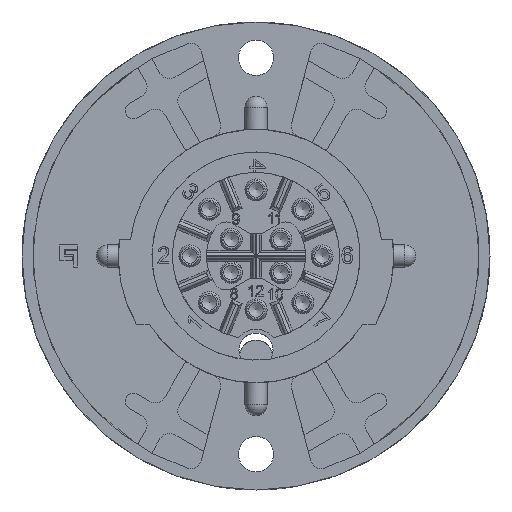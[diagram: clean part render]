
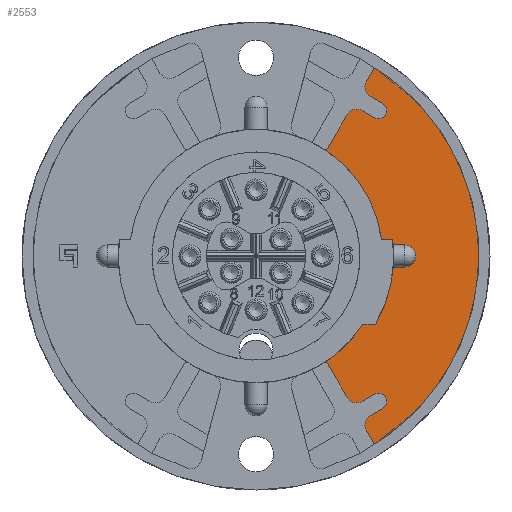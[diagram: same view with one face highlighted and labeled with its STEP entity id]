
A CAD part, left-side view. The second image highlights one B-rep face of the part: STEP entity #2553.
In plain terms, the highlighted planar face has unit normal (-1, 0, 0).
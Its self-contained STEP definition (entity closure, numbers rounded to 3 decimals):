
#1514=PLANE('',#14249);
#1882=FACE_OUTER_BOUND('',#5669,.T.);
#2553=ADVANCED_FACE('',(#1882),#1514,.F.);
#3515=LINE('',#18437,#4318);
#3516=LINE('',#18439,#4319);
#3531=LINE('',#18505,#4334);
#3534=LINE('',#18511,#4337);
#3551=LINE('',#18571,#4354);
#3552=LINE('',#18576,#4355);
#3553=LINE('',#18580,#4356);
#3554=LINE('',#18581,#4357);
#3555=LINE('',#18585,#4358);
#3556=LINE('',#18589,#4359);
#3557=LINE('',#18593,#4360);
#3558=LINE('',#18597,#4361);
#3559=LINE('',#18598,#4362);
#3560=LINE('',#18602,#4363);
#4318=VECTOR('',#15318,1.);
#4319=VECTOR('',#15321,1.);
#4334=VECTOR('',#15360,1.);
#4337=VECTOR('',#15365,1.);
#4354=VECTOR('',#15446,1.);
#4355=VECTOR('',#15449,1.);
#4356=VECTOR('',#15452,1.);
#4357=VECTOR('',#15453,1.);
#4358=VECTOR('',#15456,1.);
#4359=VECTOR('',#15459,1.);
#4360=VECTOR('',#15462,1.);
#4361=VECTOR('',#15465,1.);
#4362=VECTOR('',#15466,1.);
#4363=VECTOR('',#15469,1.);
#5669=EDGE_LOOP('',(#6957,#6958,#6959,#6960,#6961,#6962,#6963,#6964,#6965,
#6966,#6967,#6968,#6969,#6970,#6971,#6972,#6973,#6974,#6975,#6976,#6977,
#6978,#6979,#6980,#6981,#6982,#6983,#6984));
#6957=ORIENTED_EDGE('',*,*,#12073,.T.);
#6958=ORIENTED_EDGE('',*,*,#12074,.T.);
#6959=ORIENTED_EDGE('',*,*,#12075,.T.);
#6960=ORIENTED_EDGE('',*,*,#12076,.T.);
#6961=ORIENTED_EDGE('',*,*,#12077,.T.);
#6962=ORIENTED_EDGE('',*,*,#11925,.T.);
#6963=ORIENTED_EDGE('',*,*,#12023,.T.);
#6964=ORIENTED_EDGE('',*,*,#12016,.T.);
#6965=ORIENTED_EDGE('',*,*,#12041,.F.);
#6966=ORIENTED_EDGE('',*,*,#12046,.F.);
#6967=ORIENTED_EDGE('',*,*,#12044,.F.);
#6968=ORIENTED_EDGE('',*,*,#12019,.T.);
#6969=ORIENTED_EDGE('',*,*,#12022,.T.);
#6970=ORIENTED_EDGE('',*,*,#11917,.T.);
#6971=ORIENTED_EDGE('',*,*,#12078,.T.);
#6972=ORIENTED_EDGE('',*,*,#12079,.T.);
#6973=ORIENTED_EDGE('',*,*,#12080,.T.);
#6974=ORIENTED_EDGE('',*,*,#12081,.T.);
#6975=ORIENTED_EDGE('',*,*,#12082,.T.);
#6976=ORIENTED_EDGE('',*,*,#12083,.T.);
#6977=ORIENTED_EDGE('',*,*,#12084,.T.);
#6978=ORIENTED_EDGE('',*,*,#12085,.T.);
#6979=ORIENTED_EDGE('',*,*,#12086,.T.);
#6980=ORIENTED_EDGE('',*,*,#12067,.T.);
#6981=ORIENTED_EDGE('',*,*,#12087,.T.);
#6982=ORIENTED_EDGE('',*,*,#12088,.T.);
#6983=ORIENTED_EDGE('',*,*,#12089,.T.);
#6984=ORIENTED_EDGE('',*,*,#12090,.T.);
#10566=VERTEX_POINT('',#18005);
#10567=VERTEX_POINT('',#18007);
#10573=VERTEX_POINT('',#18021);
#10574=VERTEX_POINT('',#18023);
#10642=VERTEX_POINT('',#18395);
#10643=VERTEX_POINT('',#18397);
#10644=VERTEX_POINT('',#18400);
#10645=VERTEX_POINT('',#18402);
#10654=VERTEX_POINT('',#18504);
#10655=VERTEX_POINT('',#18508);
#10664=VERTEX_POINT('',#18560);
#10665=VERTEX_POINT('',#18562);
#10668=VERTEX_POINT('',#18572);
#10669=VERTEX_POINT('',#18573);
#10670=VERTEX_POINT('',#18575);
#10671=VERTEX_POINT('',#18577);
#10672=VERTEX_POINT('',#18579);
#10673=VERTEX_POINT('',#18582);
#10674=VERTEX_POINT('',#18584);
#10675=VERTEX_POINT('',#18586);
#10676=VERTEX_POINT('',#18588);
#10677=VERTEX_POINT('',#18590);
#10678=VERTEX_POINT('',#18592);
#10679=VERTEX_POINT('',#18594);
#10680=VERTEX_POINT('',#18596);
#10681=VERTEX_POINT('',#18599);
#10682=VERTEX_POINT('',#18601);
#10683=VERTEX_POINT('',#18603);
#11917=EDGE_CURVE('',#10567,#10566,#13806,.T.);
#11925=EDGE_CURVE('',#10574,#10573,#13809,.T.);
#12016=EDGE_CURVE('',#10643,#10642,#13848,.T.);
#12019=EDGE_CURVE('',#10645,#10644,#13849,.T.);
#12022=EDGE_CURVE('',#10644,#10567,#3515,.T.);
#12023=EDGE_CURVE('',#10573,#10643,#3516,.T.);
#12041=EDGE_CURVE('',#10654,#10642,#3531,.T.);
#12044=EDGE_CURVE('',#10645,#10655,#3534,.T.);
#12046=EDGE_CURVE('',#10655,#10654,#13853,.T.);
#12067=EDGE_CURVE('',#10665,#10664,#13862,.T.);
#12073=EDGE_CURVE('',#10668,#10669,#3551,.T.);
#12074=EDGE_CURVE('',#10669,#10670,#13864,.T.);
#12075=EDGE_CURVE('',#10670,#10671,#3552,.T.);
#12076=EDGE_CURVE('',#10671,#10672,#13865,.T.);
#12077=EDGE_CURVE('',#10672,#10574,#3553,.T.);
#12078=EDGE_CURVE('',#10566,#10673,#3554,.T.);
#12079=EDGE_CURVE('',#10673,#10674,#13866,.T.);
#12080=EDGE_CURVE('',#10674,#10675,#3555,.T.);
#12081=EDGE_CURVE('',#10675,#10676,#13867,.T.);
#12082=EDGE_CURVE('',#10676,#10677,#3556,.T.);
#12083=EDGE_CURVE('',#10677,#10678,#13868,.T.);
#12084=EDGE_CURVE('',#10678,#10679,#3557,.T.);
#12085=EDGE_CURVE('',#10679,#10680,#13869,.T.);
#12086=EDGE_CURVE('',#10680,#10665,#3558,.T.);
#12087=EDGE_CURVE('',#10664,#10681,#3559,.T.);
#12088=EDGE_CURVE('',#10681,#10682,#13870,.T.);
#12089=EDGE_CURVE('',#10682,#10683,#3560,.T.);
#12090=EDGE_CURVE('',#10683,#10668,#13871,.T.);
#13806=CIRCLE('',#14127,11.5);
#13809=CIRCLE('',#14131,11.5);
#13848=CIRCLE('',#14192,12.5);
#13849=CIRCLE('',#14193,12.5);
#13853=CIRCLE('',#14211,1.);
#13862=CIRCLE('',#14238,20.25);
#13864=CIRCLE('',#14241,0.7);
#13865=CIRCLE('',#14242,1.);
#13866=CIRCLE('',#14243,1.);
#13867=CIRCLE('',#14244,0.7);
#13868=CIRCLE('',#14245,0.7);
#13869=CIRCLE('',#14246,1.);
#13870=CIRCLE('',#14247,1.);
#13871=CIRCLE('',#14248,0.7);
#14127=AXIS2_PLACEMENT_3D('',#18006,#15134,#15135);
#14131=AXIS2_PLACEMENT_3D('',#18022,#15147,#15148);
#14192=AXIS2_PLACEMENT_3D('',#18396,#15309,#15310);
#14193=AXIS2_PLACEMENT_3D('',#18401,#15313,#15314);
#14211=AXIS2_PLACEMENT_3D('',#18514,#15370,#15371);
#14238=AXIS2_PLACEMENT_3D('',#18561,#15436,#15437);
#14241=AXIS2_PLACEMENT_3D('',#18574,#15447,#15448);
#14242=AXIS2_PLACEMENT_3D('',#18578,#15450,#15451);
#14243=AXIS2_PLACEMENT_3D('',#18583,#15454,#15455);
#14244=AXIS2_PLACEMENT_3D('',#18587,#15457,#15458);
#14245=AXIS2_PLACEMENT_3D('',#18591,#15460,#15461);
#14246=AXIS2_PLACEMENT_3D('',#18595,#15463,#15464);
#14247=AXIS2_PLACEMENT_3D('',#18600,#15467,#15468);
#14248=AXIS2_PLACEMENT_3D('',#18604,#15470,#15471);
#14249=AXIS2_PLACEMENT_3D('',#18605,#15472,#15473);
#15134=DIRECTION('',(1.,0.,0.));
#15135=DIRECTION('',(0.,1.,0.));
#15147=DIRECTION('',(1.,0.,0.));
#15148=DIRECTION('',(0.,1.,0.));
#15309=DIRECTION('',(1.,0.,0.));
#15310=DIRECTION('',(0.,1.,0.));
#15313=DIRECTION('',(1.,0.,0.));
#15314=DIRECTION('',(0.,1.,0.));
#15318=DIRECTION('',(0.,1.,0.));
#15321=DIRECTION('',(0.,-1.,0.));
#15360=DIRECTION('',(0.,1.,0.));
#15365=DIRECTION('',(0.,-1.,0.));
#15370=DIRECTION('',(-1.,0.,0.));
#15371=DIRECTION('',(0.,0.,-1.));
#15436=DIRECTION('',(-1.,0.,0.));
#15437=DIRECTION('',(0.,1.,0.));
#15446=DIRECTION('',(0.,0.5,-0.866));
#15447=DIRECTION('',(1.,0.,0.));
#15448=DIRECTION('',(0.,0.,-1.));
#15449=DIRECTION('',(0.,0.866,0.5));
#15450=DIRECTION('',(-1.,0.,0.));
#15451=DIRECTION('',(0.,0.,-1.));
#15452=DIRECTION('',(0.,0.5,-0.866));
#15453=DIRECTION('',(0.,-0.5,-0.866));
#15454=DIRECTION('',(-1.,0.,0.));
#15455=DIRECTION('',(0.,0.,-1.));
#15456=DIRECTION('',(0.,-0.866,0.5));
#15457=DIRECTION('',(1.,0.,0.));
#15458=DIRECTION('',(0.,0.,-1.));
#15459=DIRECTION('',(0.,-0.5,-0.866));
#15460=DIRECTION('',(1.,0.,0.));
#15461=DIRECTION('',(0.,0.,-1.));
#15462=DIRECTION('',(0.,0.866,-0.5));
#15463=DIRECTION('',(-1.,0.,0.));
#15464=DIRECTION('',(0.,0.,-1.));
#15465=DIRECTION('',(0.,-0.5,-0.866));
#15466=DIRECTION('',(0.,0.5,-0.866));
#15467=DIRECTION('',(-1.,0.,0.));
#15468=DIRECTION('',(0.,0.,-1.));
#15469=DIRECTION('',(0.,-0.866,-0.5));
#15470=DIRECTION('',(1.,0.,0.));
#15471=DIRECTION('',(0.,0.,-1.));
#15472=DIRECTION('',(1.,0.,0.));
#15473=DIRECTION('',(0.,0.,-1.));
#18005=CARTESIAN_POINT('',(6.5,-6.387,-9.563));
#18006=CARTESIAN_POINT('',(6.5,0.,0.));
#18007=CARTESIAN_POINT('',(6.5,-9.686,-6.2));
#18021=CARTESIAN_POINT('',(6.5,-11.402,1.5));
#18022=CARTESIAN_POINT('',(6.5,0.,0.));
#18023=CARTESIAN_POINT('',(6.5,-6.387,9.563));
#18395=CARTESIAN_POINT('',(6.5,-12.46,1.));
#18396=CARTESIAN_POINT('',(6.5,0.,0.));
#18397=CARTESIAN_POINT('',(6.5,-12.41,1.5));
#18400=CARTESIAN_POINT('',(6.5,-10.854,-6.2));
#18401=CARTESIAN_POINT('',(6.5,0.,0.));
#18402=CARTESIAN_POINT('',(6.5,-12.46,-1.));
#18437=CARTESIAN_POINT('',(6.5,-10.854,-6.2));
#18439=CARTESIAN_POINT('',(6.5,-11.402,1.5));
#18504=CARTESIAN_POINT('',(6.5,-13.5,1.));
#18505=CARTESIAN_POINT('',(6.5,-13.5,1.));
#18508=CARTESIAN_POINT('',(6.5,-13.5,-1.));
#18511=CARTESIAN_POINT('',(6.5,-11.456,-1.));
#18514=CARTESIAN_POINT('',(6.5,-13.5,0.));
#18560=CARTESIAN_POINT('',(6.5,-10.768,17.15));
#18561=CARTESIAN_POINT('',(6.5,0.,0.));
#18562=CARTESIAN_POINT('',(6.5,-10.768,-17.15));
#18571=CARTESIAN_POINT('',(6.5,-3.248,-1.875));
#18572=CARTESIAN_POINT('',(6.5,-11.773,12.891));
#18573=CARTESIAN_POINT('',(6.5,-11.723,12.804));
#18574=CARTESIAN_POINT('',(6.5,-11.116,13.154));
#18575=CARTESIAN_POINT('',(6.5,-10.766,12.548));
#18576=CARTESIAN_POINT('',(6.5,-8.125,14.073));
#18577=CARTESIAN_POINT('',(6.5,-9.641,13.198));
#18578=CARTESIAN_POINT('',(6.5,-9.141,12.332));
#18579=CARTESIAN_POINT('',(6.5,-8.275,12.832));
#18580=CARTESIAN_POINT('',(6.5,-0.65,-0.375));
#18581=CARTESIAN_POINT('',(6.5,-0.65,0.375));
#18582=CARTESIAN_POINT('',(6.5,-8.275,-12.832));
#18583=CARTESIAN_POINT('',(6.5,-9.141,-12.332));
#18584=CARTESIAN_POINT('',(6.5,-9.641,-13.198));
#18585=CARTESIAN_POINT('',(6.5,-8.125,-14.073));
#18586=CARTESIAN_POINT('',(6.5,-10.766,-12.548));
#18587=CARTESIAN_POINT('',(6.5,-11.116,-13.154));
#18588=CARTESIAN_POINT('',(6.5,-11.723,-12.804));
#18589=CARTESIAN_POINT('',(6.5,-3.248,1.875));
#18590=CARTESIAN_POINT('',(6.5,-11.773,-12.891));
#18591=CARTESIAN_POINT('',(6.5,-11.166,-13.241));
#18592=CARTESIAN_POINT('',(6.5,-11.516,-13.847));
#18593=CARTESIAN_POINT('',(6.5,-8.875,-15.372));
#18594=CARTESIAN_POINT('',(6.5,-10.391,-14.497));
#18595=CARTESIAN_POINT('',(6.5,-10.891,-15.363));
#18596=CARTESIAN_POINT('',(6.5,-10.025,-15.863));
#18597=CARTESIAN_POINT('',(6.5,-0.65,0.375));
#18598=CARTESIAN_POINT('',(6.5,-0.65,-0.375));
#18599=CARTESIAN_POINT('',(6.5,-10.025,15.863));
#18600=CARTESIAN_POINT('',(6.5,-10.891,15.363));
#18601=CARTESIAN_POINT('',(6.5,-10.391,14.497));
#18602=CARTESIAN_POINT('',(6.5,-8.875,15.372));
#18603=CARTESIAN_POINT('',(6.5,-11.516,13.847));
#18604=CARTESIAN_POINT('',(6.5,-11.166,13.241));
#18605=CARTESIAN_POINT('',(6.5,0.,0.));
